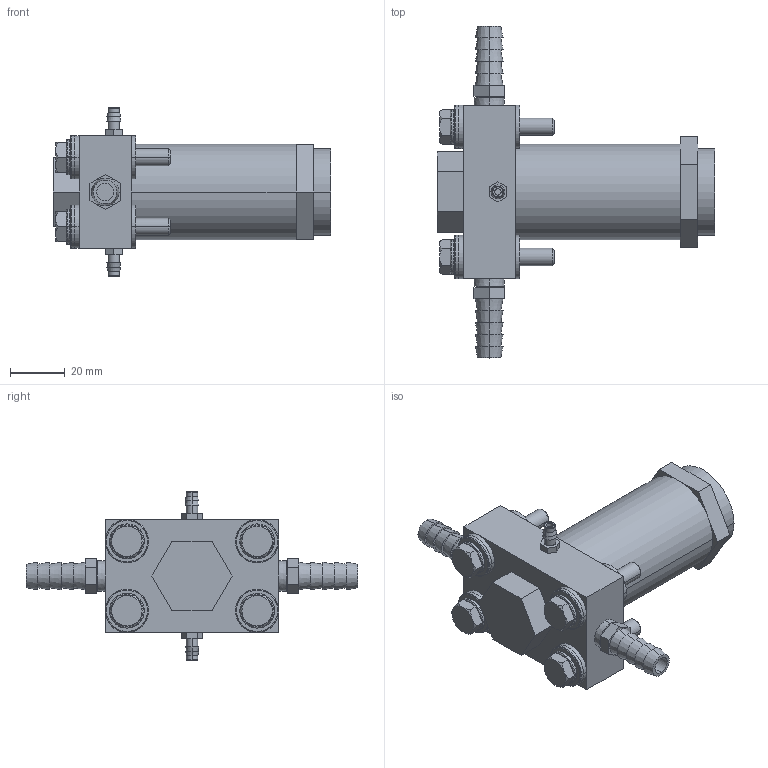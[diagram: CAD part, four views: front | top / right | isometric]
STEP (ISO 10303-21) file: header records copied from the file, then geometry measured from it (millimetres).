
FILE_DESCRIPTION((''),'2;1');
FILE_NAME('XKR3_ASM','2017-08-24T',('jennifer.elliott'),('CenterLine (Windsor) Ltd - Automation Components Division'),'PRO/ENGINEER BY PARAMETRIC TECHNOLOGY CORPORATION, 2015030','PRO/ENGINEER BY PARAMETRIC TECHNOLOGY CORPORATION, 2015030','');
FILE_SCHEMA(('AUTOMOTIVE_DESIGN { 1 0 10303 214 1 1 1 1 }'));
Length unit declared in the file: inch
Products named in the file (31): PRT1506; PRT1507; PRT1508; PRT1509; PRT1510; PRT1511; PRT1512; PRT1513; PRT1514; PRT1515; PRT1516; PRT1517; PRT1518; PRT1519; ASM0019_ASM; PRT1520; PRT1521; PRT1522; PRT1523; PRT1524; PRT1525; PRT1526; PRT1527; PRT1528; PRT1529; PRT1530; PRT1531; PRT1532; PRT1533; PRT1534; XKR3_ASM
Assembly tree (30 placements, depth 3):
  XKR3_ASM
    PRT1506
    PRT1507
    PRT1508
    PRT1509
    PRT1510
    PRT1511
    PRT1512
    PRT1513
    PRT1514
    PRT1515
    ASM0019_ASM
      PRT1516
      PRT1517
      PRT1518
      PRT1519
    PRT1520
    PRT1521
    PRT1522
    PRT1523
    PRT1524
    PRT1525
    PRT1526
    PRT1527
    PRT1528
    PRT1529
    PRT1530
    PRT1531
    PRT1532
    PRT1533
    PRT1534
Bounding box: 101.6 x 121.41 x 61.9 mm (x, y, z)
Volume: 135790.1 mm3; surface area: 44428 mm2
Topology: 29 solids, 29 shells, 346 faces, 760 edges, 496 vertices
Faces by surface type: plane 158, cylinder 92, cone 64, torus 32
Entity records: 11936 total; most frequent: CARTESIAN_POINT 2207, DIRECTION 1854, ORIENTED_EDGE 1520, AXIS2_PLACEMENT_3D 771, EDGE_CURVE 760, VERTEX_POINT 496, EDGE_LOOP 402, CIRCLE 360
